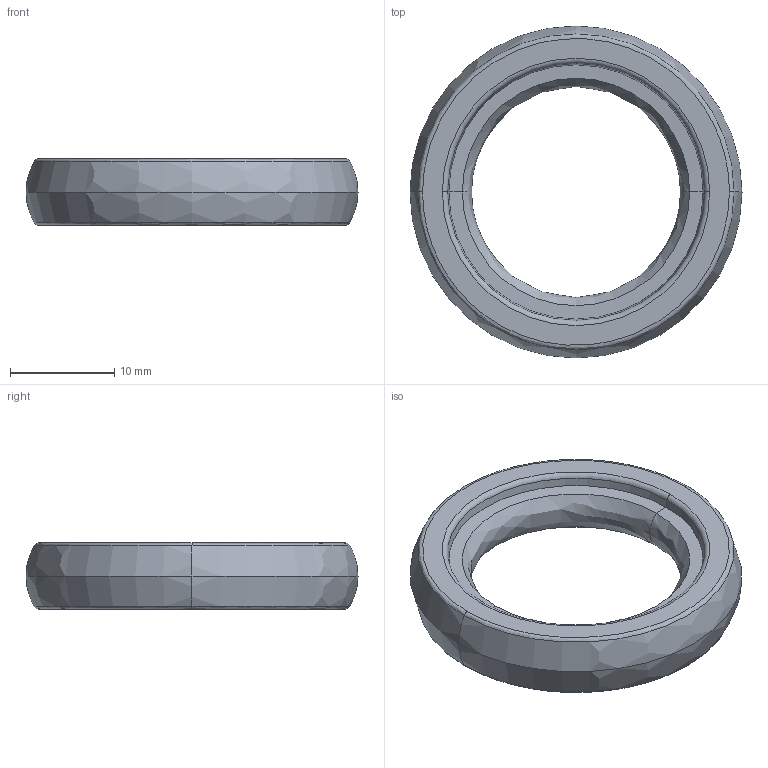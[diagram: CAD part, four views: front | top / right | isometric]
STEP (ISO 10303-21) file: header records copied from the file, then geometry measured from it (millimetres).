
FILE_DESCRIPTION (( 'STEP AP214' ), '1' );
FILE_NAME ('228-2500-207.STEP', '2021-02-18T19:57:47', ( '' ), ( '' ), 'SwSTEP 2.0', 'SolidWorks 2019', '' );
FILE_SCHEMA (( 'AUTOMOTIVE_DESIGN' ));
Length unit declared in the file: millimetre
Products named in the file (1): 228-2500-207
Bounding box: 31.83 x 31.83 x 6.35 mm (x, y, z)
Volume: 2401.9 mm3; surface area: 1729.3 mm2
Topology: 1 solids, 1 shells, 24 faces, 48 edges, 26 vertices
Faces by surface type: bspline 10, cone 8, torus 4, plane 2
Entity records: 772 total; most frequent: CARTESIAN_POINT 261, DIRECTION 110, ORIENTED_EDGE 96, AXIS2_PLACEMENT_3D 51, EDGE_CURVE 48, CIRCLE 36, EDGE_LOOP 26, VERTEX_POINT 26
